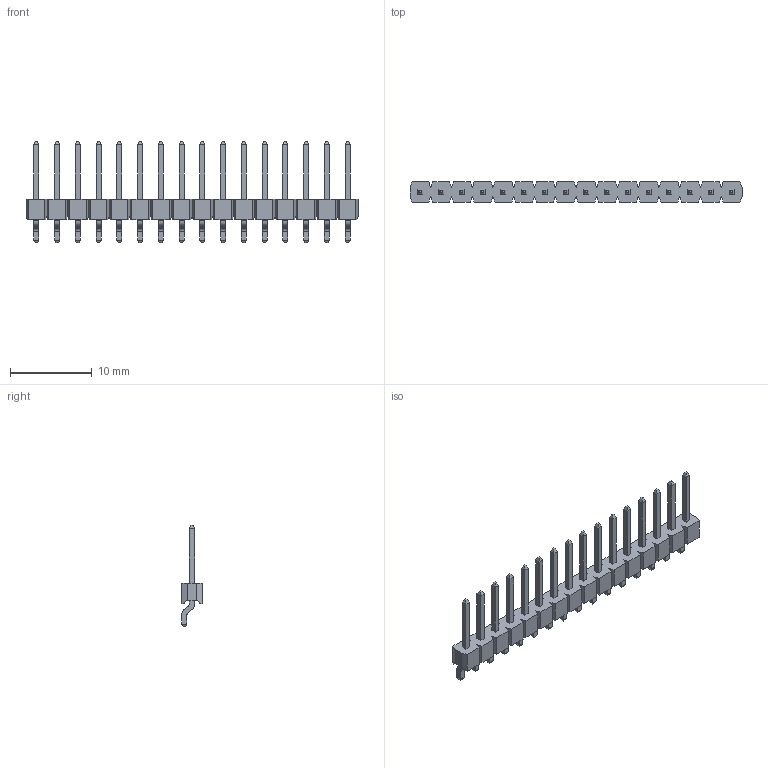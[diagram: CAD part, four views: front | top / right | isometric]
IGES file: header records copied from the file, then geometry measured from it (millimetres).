
Global section: file name: N:\ESD\Matthias\GolfVI\2184\UG files\Part Family\961116-5900-XX-XX.igs; native system: NX V5.0; preprocessor: UGS NX IGES V5.0; date: 20080611.131230; units: millimetre
Bounding box: 40.64 x 2.5 x 12.4 mm (x, y, z)
Surface area: 903.8 mm2 (no closed solid volume)
Topology: 0 solids, 0 shells, 580 faces, 3021 edges, 3021 vertices
Faces by surface type: bspline 580
